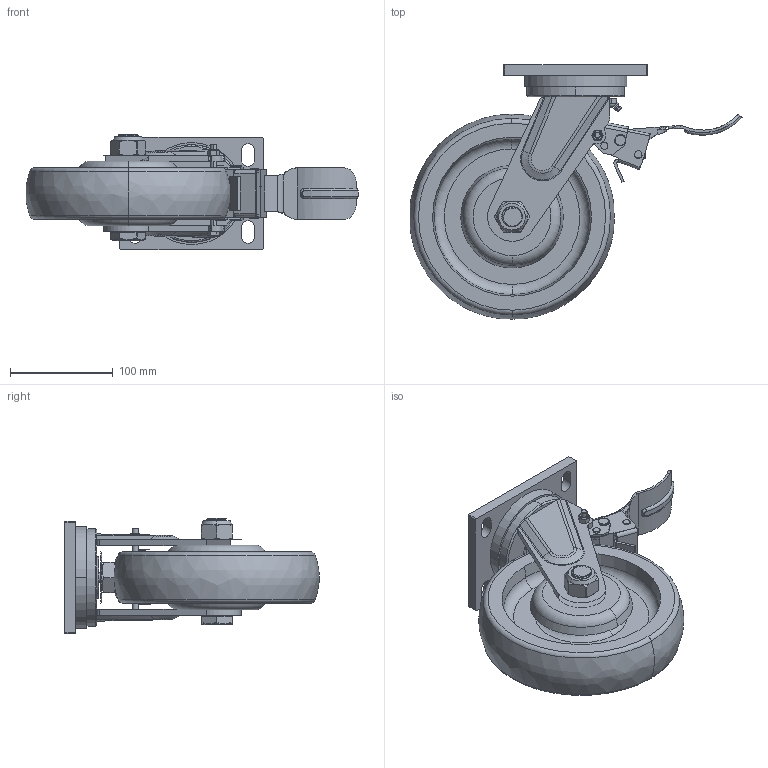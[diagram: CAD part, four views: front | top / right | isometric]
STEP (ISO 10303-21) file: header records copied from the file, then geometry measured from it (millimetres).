
FILE_DESCRIPTION((''),'2;1');
FILE_NAME('PRT0002','2025-03-31T13:51:46',('Administrator'),(''),'CREO PARAMETRIC BY PTC INC, 2022124','CREO PARAMETRIC BY PTC INC, 2022124','');
FILE_SCHEMA(('AP203_CONFIGURATION_CONTROLLED_3D_DESIGN_OF_MECHANICAL_PARTS_AND_ASSEMBLIES_MIM_LF { 1 0 10303 403 2 1 2 }'));
Length unit declared in the file: millimetre
Products named in the file (1): PRT0002
Bounding box: 323.8 x 247.83 x 113 mm (x, y, z)
Surface area: 270281.9 mm2 (no closed solid volume)
Topology: 0 solids, 46 shells, 340 faces, 1315 edges, 986 vertices
Faces by surface type: plane 151, cone 55, cylinder 55, bspline 46, torus 33
Entity records: 20924 total; most frequent: CARTESIAN_POINT 8324, ORIENTED_EDGE 1981, DIRECTION 1890, EDGE_CURVE 1315, VERTEX_POINT 1000, AXIS2_PLACEMENT_3D 731, B_SPLINE_CURVE_WITH_KNOTS 463, CIRCLE 427
